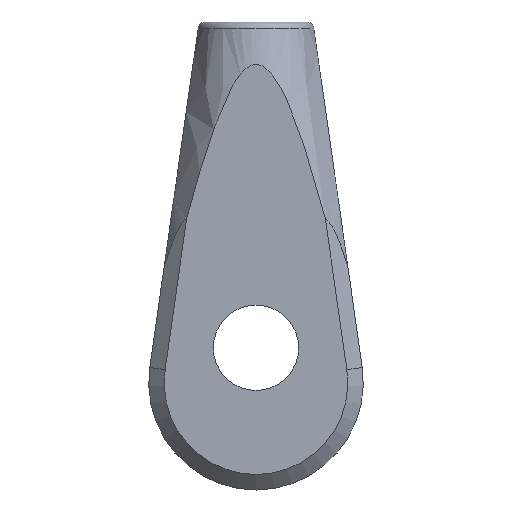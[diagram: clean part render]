
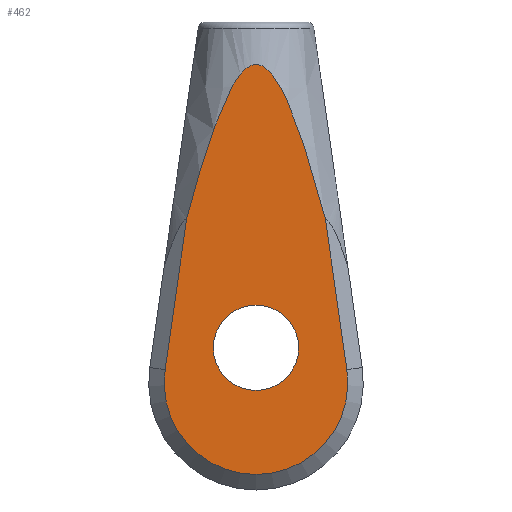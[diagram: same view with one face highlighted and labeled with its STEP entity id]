
A CAD part, front view. The second image highlights one B-rep face of the part: STEP entity #462.
In plain terms, the highlighted planar face has unit normal (0, -1, 0).
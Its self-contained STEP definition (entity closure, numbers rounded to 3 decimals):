
#1 = VERTEX_POINT ( 'NONE', #2039 ) ;
#2 = DIRECTION ( 'NONE',  ( 0., 0., 1. ) ) ;
#18 = VERTEX_POINT ( 'NONE', #151 ) ;
#22 = DIRECTION ( 'NONE',  ( 0., 1., 0. ) ) ;
#52 = DIRECTION ( 'NONE',  ( 0., 0., 1. ) ) ;
#100 = CARTESIAN_POINT ( 'NONE',  ( 22., -25.2, -126. ) ) ;
#122 = EDGE_CURVE ( 'NONE', #306, #1946, #1421, .T. ) ;
#126 = CARTESIAN_POINT ( 'NONE',  ( 35.315, -25.2, -33.424 ) ) ;
#131 = CARTESIAN_POINT ( 'NONE',  ( 15.613, -25.2, -20.545 ) ) ;
#135 = DIRECTION ( 'NONE',  ( 0., 0., 1. ) ) ;
#151 = CARTESIAN_POINT ( 'NONE',  ( -4.805, -25.2, -76.092 ) ) ;
#153 = CARTESIAN_POINT ( 'NONE',  ( 14.341, -25.2, -22.253 ) ) ;
#157 = CARTESIAN_POINT ( 'NONE',  ( 16.063, -25.2, -19.99 ) ) ;
#161 = VECTOR ( 'NONE', #731, 1000. ) ;
#165 = CARTESIAN_POINT ( 'NONE',  ( 17.53, -25.2, -18.456 ) ) ;
#240 = FACE_OUTER_BOUND ( 'NONE', #1905, .T. ) ;
#260 = CARTESIAN_POINT ( 'NONE',  ( -13.143, -25.2, -134.481 ) ) ;
#284 = CARTESIAN_POINT ( 'NONE',  ( 17.022, -25.2, -18.946 ) ) ;
#287 = CARTESIAN_POINT ( 'NONE',  ( 22., -25.2, -109.5 ) ) ;
#290 = CARTESIAN_POINT ( 'NONE',  ( 18.366, -25.2, -17.796 ) ) ;
#298 = CARTESIAN_POINT ( 'NONE',  ( 35.843, -25.2, -34.718 ) ) ;
#299 = CARTESIAN_POINT ( 'NONE',  ( 29.61, -25.2, -22.181 ) ) ;
#306 = VERTEX_POINT ( 'NONE', #260 ) ;
#315 = CARTESIAN_POINT ( 'NONE',  ( 30.369, -25.2, -23.382 ) ) ;
#318 = ORIENTED_EDGE ( 'NONE', *, *, #1521, .T. ) ;
#320 = CARTESIAN_POINT ( 'NONE',  ( 31.769, -25.2, -25.822 ) ) ;
#369 = VERTEX_POINT ( 'NONE', #1378 ) ;
#389 = CARTESIAN_POINT ( 'NONE',  ( 57.143, -25.2, -134.481 ) ) ;
#429 = AXIS2_PLACEMENT_3D ( 'NONE', #100, #22, #2 ) ;
#453 = CARTESIAN_POINT ( 'NONE',  ( 40.154, -25.2, -46.553 ) ) ;
#458 = CARTESIAN_POINT ( 'NONE',  ( 18.658, -25.2, -17.588 ) ) ;
#462 = ADVANCED_FACE ( 'NONE', ( #1893, #240 ), #1107, .F. ) ;
#467 = VERTEX_POINT ( 'NONE', #287 ) ;
#472 = CARTESIAN_POINT ( 'NONE',  ( 32.414, -25.2, -27.066 ) ) ;
#474 = CARTESIAN_POINT ( 'NONE',  ( 33.634, -25.2, -29.583 ) ) ;
#476 = AXIS2_PLACEMENT_3D ( 'NONE', #2022, #1102, #135 ) ;
#477 = CARTESIAN_POINT ( 'NONE',  ( 19.265, -25.2, -17.215 ) ) ;
#478 = CARTESIAN_POINT ( 'NONE',  ( 34.21, -25.2, -30.857 ) ) ;
#491 = CARTESIAN_POINT ( 'NONE',  ( 37.376, -25.2, -38.621 ) ) ;
#511 = CARTESIAN_POINT ( 'NONE',  ( 38.33, -25.2, -41.253 ) ) ;
#573 = CARTESIAN_POINT ( 'NONE',  ( 20.233, -25.2, -16.77 ) ) ;
#587 = ORIENTED_EDGE ( 'NONE', *, *, #1815, .T. ) ;
#600 = LINE ( 'NONE', #721, #161 ) ;
#609 = CARTESIAN_POINT ( 'NONE',  ( 57.143, -25.2, -134.481 ) ) ;
#617 = DIRECTION ( 'NONE',  ( -0.141, 0., 0.99 ) ) ;
#619 = ORIENTED_EDGE ( 'NONE', *, *, #792, .T. ) ;
#655 = CARTESIAN_POINT ( 'NONE',  ( -3.364, -25.2, -70.691 ) ) ;
#659 = CARTESIAN_POINT ( 'NONE',  ( -4.805, -25.2, -76.092 ) ) ;
#707 = CARTESIAN_POINT ( 'NONE',  ( 47.363, -25.2, -70.688 ) ) ;
#711 = EDGE_LOOP ( 'NONE', ( #587, #2049 ) ) ;
#721 = CARTESIAN_POINT ( 'NONE',  ( -13.143, -25.2, -134.481 ) ) ;
#730 = CIRCLE ( 'NONE', #1662, 16.5 ) ;
#731 = DIRECTION ( 'NONE',  ( -0.141, 0., -0.99 ) ) ;
#737 = DIRECTION ( 'NONE',  ( 0., -1., 0. ) ) ;
#756 = CARTESIAN_POINT ( 'NONE',  ( 20.577, -25.2, -16.657 ) ) ;
#764 = CARTESIAN_POINT ( 'NONE',  ( 22.331, -25.2, -16.471 ) ) ;
#780 = CARTESIAN_POINT ( 'NONE',  ( 26.939, -25.2, -18.923 ) ) ;
#792 = EDGE_CURVE ( 'NONE', #1946, #369, #1915, .T. ) ;
#824 = EDGE_CURVE ( 'NONE', #18, #369, #2013, .T. ) ;
#826 = CARTESIAN_POINT ( 'NONE',  ( 19.579, -25.2, -17.049 ) ) ;
#842 = CARTESIAN_POINT ( 'NONE',  ( 28.346, -25.2, -20.494 ) ) ;
#859 = CARTESIAN_POINT ( 'NONE',  ( 27.902, -25.2, -19.949 ) ) ;
#874 = CARTESIAN_POINT ( 'NONE',  ( 42.701, -25.2, -54.562 ) ) ;
#920 = CARTESIAN_POINT ( 'NONE',  ( 41.023, -25.2, -49.219 ) ) ;
#929 = CARTESIAN_POINT ( 'NONE',  ( 21.618, -25.2, -16.465 ) ) ;
#931 = CARTESIAN_POINT ( 'NONE',  ( 43.51, -25.2, -57.241 ) ) ;
#980 = CARTESIAN_POINT ( 'NONE',  ( 22.151, -25.2, -16.462 ) ) ;
#991 = CIRCLE ( 'NONE', #429, 16.5 ) ;
#1044 = DIRECTION ( 'NONE',  ( 0., 1., 0. ) ) ;
#1102 = DIRECTION ( 'NONE',  ( 0., 1., 0. ) ) ;
#1107 = PLANE ( 'NONE',  #476 ) ;
#1134 = CARTESIAN_POINT ( 'NONE',  ( 21.268, -25.2, -16.505 ) ) ;
#1147 = ORIENTED_EDGE ( 'NONE', *, *, #122, .T. ) ;
#1291 = ORIENTED_EDGE ( 'NONE', *, *, #824, .F. ) ;
#1349 = CARTESIAN_POINT ( 'NONE',  ( 22.687, -25.2, -16.508 ) ) ;
#1378 = CARTESIAN_POINT ( 'NONE',  ( 48.805, -25.2, -76.092 ) ) ;
#1421 = CIRCLE ( 'NONE', #1626, 35.5 ) ;
#1483 = DIRECTION ( 'NONE',  ( 0., 0., 1. ) ) ;
#1511 = VECTOR ( 'NONE', #617, 1000. ) ;
#1521 = EDGE_CURVE ( 'NONE', #18, #306, #600, .T. ) ;
#1541 = CARTESIAN_POINT ( 'NONE',  ( 22.863, -25.2, -16.535 ) ) ;
#1559 = EDGE_CURVE ( 'NONE', #467, #1, #991, .T. ) ;
#1622 = CARTESIAN_POINT ( 'NONE',  ( 22., -25.2, -139.5 ) ) ;
#1626 = AXIS2_PLACEMENT_3D ( 'NONE', #1622, #737, #1483 ) ;
#1662 = AXIS2_PLACEMENT_3D ( 'NONE', #1940, #1044, #52 ) ;
#1690 = CARTESIAN_POINT ( 'NONE',  ( 23.383, -25.2, -16.645 ) ) ;
#1699 = CARTESIAN_POINT ( 'NONE',  ( 23.723, -25.2, -16.754 ) ) ;
#1815 = EDGE_CURVE ( 'NONE', #1, #467, #730, .T. ) ;
#1827 = CARTESIAN_POINT ( 'NONE',  ( 26.424, -25.2, -18.438 ) ) ;
#1844 = CARTESIAN_POINT ( 'NONE',  ( -1.874, -25.2, -65.3 ) ) ;
#1851 = CARTESIAN_POINT ( 'NONE',  ( 0.487, -25.2, -57.252 ) ) ;
#1859 = CARTESIAN_POINT ( 'NONE',  ( 1.294, -25.2, -54.578 ) ) ;
#1870 = CARTESIAN_POINT ( 'NONE',  ( 2.967, -25.2, -49.25 ) ) ;
#1874 = CARTESIAN_POINT ( 'NONE',  ( 3.832, -25.2, -46.597 ) ) ;
#1893 = FACE_BOUND ( 'NONE', #711, .T. ) ;
#1905 = EDGE_LOOP ( 'NONE', ( #1291, #318, #1147, #619 ) ) ;
#1915 = LINE ( 'NONE', #609, #1511 ) ;
#1940 = CARTESIAN_POINT ( 'NONE',  ( 22., -25.2, -126. ) ) ;
#1946 = VERTEX_POINT ( 'NONE', #389 ) ;
#1969 = CARTESIAN_POINT ( 'NONE',  ( 5.646, -25.2, -41.323 ) ) ;
#1976 = CARTESIAN_POINT ( 'NONE',  ( 6.594, -25.2, -38.701 ) ) ;
#1978 = CARTESIAN_POINT ( 'NONE',  ( 27.186, -25.2, -19.174 ) ) ;
#1986 = CARTESIAN_POINT ( 'NONE',  ( 24.715, -25.2, -17.169 ) ) ;
#1993 = CARTESIAN_POINT ( 'NONE',  ( 8.12, -25.2, -34.808 ) ) ;
#2000 = CARTESIAN_POINT ( 'NONE',  ( 8.647, -25.2, -33.517 ) ) ;
#2007 = CARTESIAN_POINT ( 'NONE',  ( 26.153, -25.2, -18.204 ) ) ;
#2011 = CARTESIAN_POINT ( 'NONE',  ( 45.873, -25.2, -65.296 ) ) ;
#2013 = B_SPLINE_CURVE_WITH_KNOTS ( 'NONE', 3,
 ( #659, #655, #1844, #1851, #1859, #1870, #1874, #1969, #1976, #1993, #2000, #2032, #2040, #2048, #2055, #2062, #153, #131, #157, #284, #165, #290, #458, #477, #826, #573, #756, #1134, #929, #980, #764, #1349, #1541, #1690, #1699, #1986, #2025, #2007, #1827, #780, #1978, #859, #842, #299, #315, #320, #472, #474, #478, #126, #298, #491, #511, #453, #920, #874, #931, #2011, #707, #2026 ),
 .UNSPECIFIED., .F., .F.,
 ( 4, 2, 2, 2, 2, 2, 2, 2, 2, 2, 2, 2, 2, 2, 2, 2, 2, 2, 2, 2, 2, 2, 2, 2, 2, 2, 2, 2, 2, 4 ),
 ( 0.49, 0.507, 0.515, 0.523, 0.532, 0.536, 0.54, 0.544, 0.549, 0.551, 0.553, 0.554, 0.555, 0.556, 0.557, 0.557, 0.558, 0.559, 0.561, 0.562, 0.563, 0.565, 0.569, 0.574, 0.578, 0.582, 0.59, 0.599, 0.607, 0.624 ),
 .UNSPECIFIED. ) ;
#2022 = CARTESIAN_POINT ( 'NONE',  ( 22., -25.2, -139.5 ) ) ;
#2025 = CARTESIAN_POINT ( 'NONE',  ( 25.313, -25.2, -17.547 ) ) ;
#2026 = CARTESIAN_POINT ( 'NONE',  ( 48.805, -25.2, -76.092 ) ) ;
#2032 = CARTESIAN_POINT ( 'NONE',  ( 9.747, -25.2, -30.953 ) ) ;
#2039 = CARTESIAN_POINT ( 'NONE',  ( 22., -25.2, -142.5 ) ) ;
#2040 = CARTESIAN_POINT ( 'NONE',  ( 10.321, -25.2, -29.68 ) ) ;
#2048 = CARTESIAN_POINT ( 'NONE',  ( 11.539, -25.2, -27.16 ) ) ;
#2049 = ORIENTED_EDGE ( 'NONE', *, *, #1559, .T. ) ;
#2055 = CARTESIAN_POINT ( 'NONE',  ( 12.182, -25.2, -25.913 ) ) ;
#2062 = CARTESIAN_POINT ( 'NONE',  ( 13.582, -25.2, -23.463 ) ) ;
